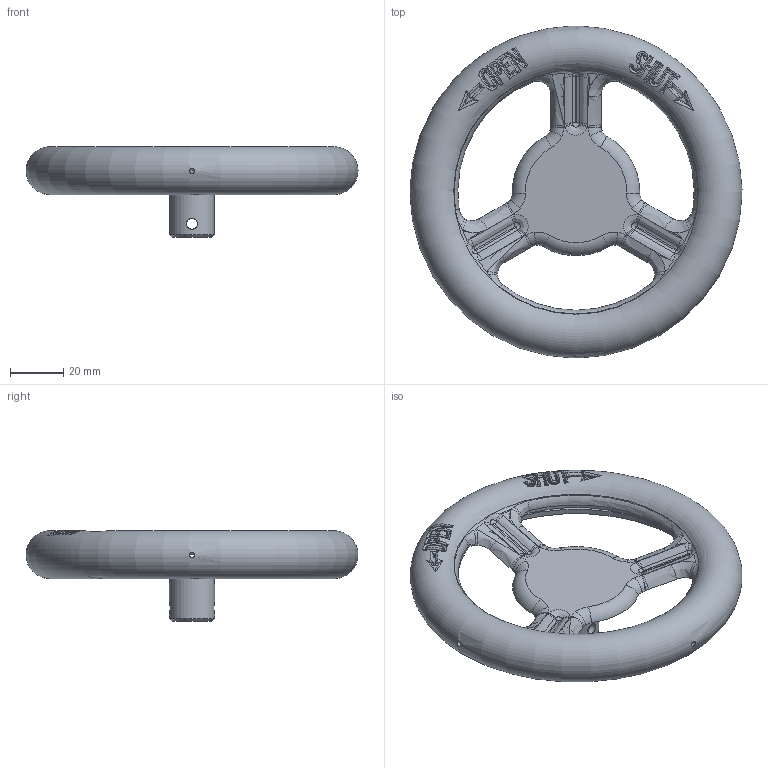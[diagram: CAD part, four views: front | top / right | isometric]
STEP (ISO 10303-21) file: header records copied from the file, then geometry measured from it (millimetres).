
FILE_DESCRIPTION( ( 'Unknown' ), '1' );
FILE_NAME( 'M:/Current Drawings/0000/MODELS 3D FOR CUSTOMERS/PS125-12.stp', 'Unknown', ( 'Unknown' ), ( 'Unknown' ), 'PSStep 10.1', 'Unknown', ' ' );
FILE_SCHEMA( ( 'automotive_design' ) );
Length unit declared in the file: millimetre
Products named in the file (1): PS125-12 Bush
Bounding box: 124.98 x 124.98 x 34 mm (x, y, z)
Volume: 34726.2 mm3; surface area: 36059.7 mm2
Topology: 1 solids, 1 shells, 477 faces, 1274 edges, 801 vertices
Faces by surface type: bspline 259, plane 83, cylinder 56, torus 50, cone 17, extrusion 12
Full cylindrical faces by diameter (mm): 2 x4, 4.1 x2, 12 x1, 17 x1, 107 x1
Entity records: 63640 total; most frequent: CARTESIAN_POINT 50277, ORIENTED_EDGE 2484, DIRECTION 1291, EDGE_CURVE 1242, VERTEX_POINT 790, B_SPLINE_CURVE_WITH_KNOTS 740, AXIS2_PLACEMENT_3D 558, EDGE_LOOP 518
